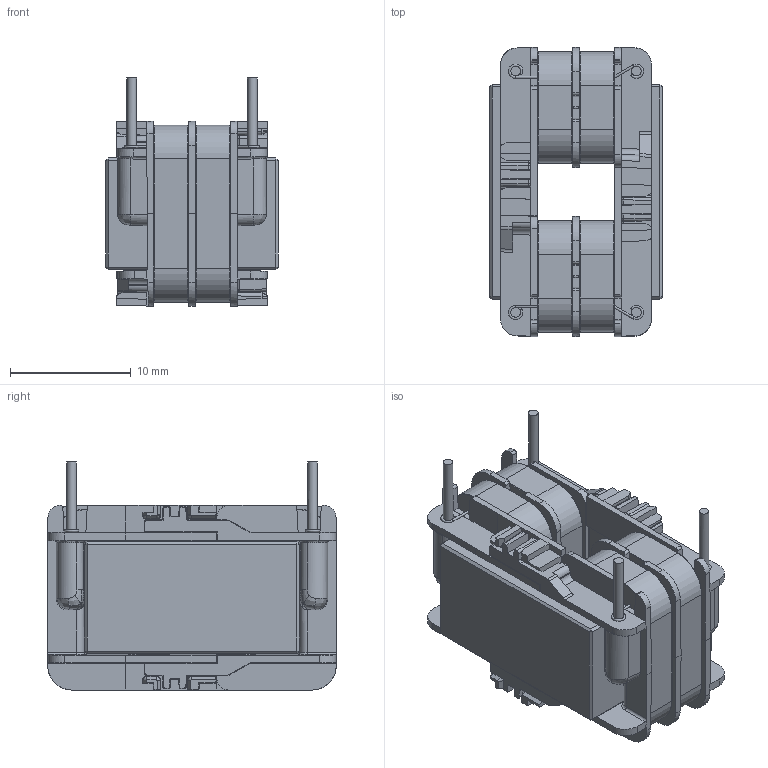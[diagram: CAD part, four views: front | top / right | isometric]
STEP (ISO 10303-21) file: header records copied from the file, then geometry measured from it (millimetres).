
FILE_DESCRIPTION(/* description */ (''),/* implementation_level */ '2;1');
FILE_NAME(/* name */ 'C:\Users\Christian.Ackermann\OneDrive - Schaffner EMV AG\Desktop\ED100-xx.stp',/* time_stamp */ '2021-11-29T17:06:59+01:00',/* author */ ('Christian.Ackermann'),/* organization */ (''),/* preprocessor_version */ 'ST-DEVELOPER v18.1',/* originating_system */ 'Autodesk Inventor 2020',/* authorisation */ '');
FILE_SCHEMA (('AUTOMOTIVE_DESIGN { 1 0 10303 214 3 1 1 }'));
Length unit declared in the file: millimetre
Products named in the file (1): ED100-xx
Bounding box: 14.3 x 24 x 18.9 mm (x, y, z)
Volume: 3437.3 mm3; surface area: 5500.4 mm2
Topology: 3 solids, 3 shells, 946 faces, 2523 edges, 1527 vertices
Faces by surface type: plane 504, cylinder 276, bspline 106, torus 40, sphere 12, cone 8
Full cylindrical faces by diameter (mm): 0.2 x6, 0.8 x4
Entity records: 34898 total; most frequent: CARTESIAN_POINT 10600, ORIENTED_EDGE 5048, DIRECTION 4694, EDGE_CURVE 2524, LINE 1668, VECTOR 1668, VERTEX_POINT 1527, AXIS2_PLACEMENT_3D 1513
